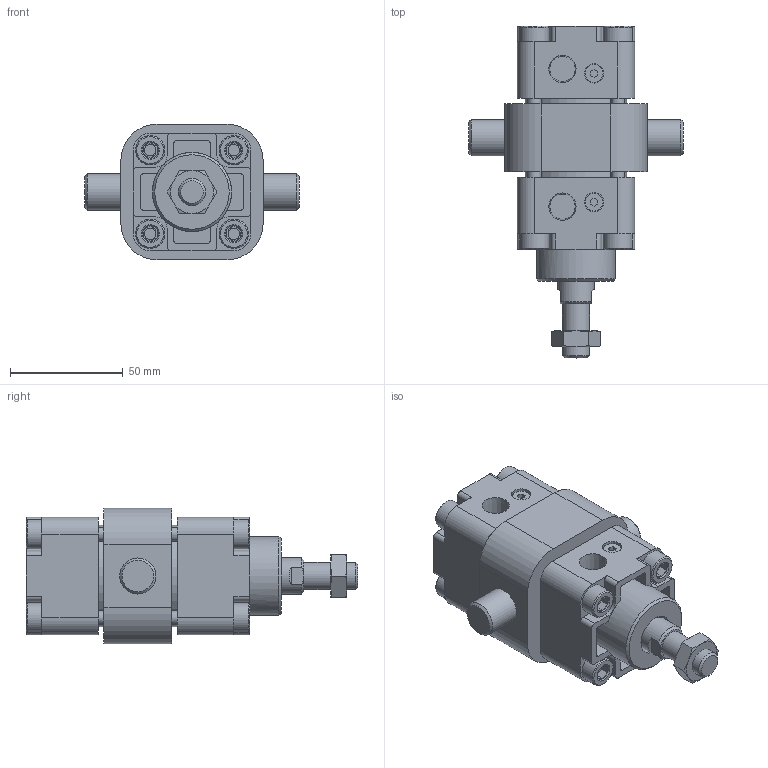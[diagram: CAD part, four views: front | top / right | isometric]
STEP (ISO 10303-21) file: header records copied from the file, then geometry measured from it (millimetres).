
FILE_DESCRIPTION(/* description */ ('Unknown'),/* implementation_level */ '2;1');
FILE_NAME(/* name */ 'WA40-TC',/* time_stamp */ '2026-07-17T16:48:41+08:00',/* author */ ('Unknown'),/* organization */ ('Unknown'),/* preprocessor_version */ 'ST-DEVELOPER v16.7',/* originating_system */ 'DEX',/* authorisation */ $);
FILE_SCHEMA (('CONFIG_CONTROL_DESIGN'));
Length unit declared in the file: millimetre
Products named in the file (8): WA40-TC; WA40_前; WA40_後; WA40_鋁; WA40_､ﾟｶbｬ｡#; WA40_T帽牙; M12-1.25P-7_螺; WA40_TC
Assembly tree (10 placements, depth 2):
  WA40-TC
    WA40_前
    WA40_後
    WA40_鋁
    WA40_､ﾟｶbｬ｡#
    WA40_T帽牙  x4
    M12-1.25P-7_螺
    WA40_TC
Bounding box: 95 x 147 x 60 mm (x, y, z)
Volume: 293596.4 mm3; surface area: 88998.9 mm2
Topology: 10 solids, 10 shells, 365 faces, 866 edges, 580 vertices
Faces by surface type: plane 213, cylinder 113, cone 39
Full cylindrical faces by diameter (mm): 5 x12, 6 x4, 8 x2, 8.5 x2, 8.8 x8, 9 x8, 10.647 x1, 12 x1, 13 x8, 16 x4, 35 x1, 39.5 x1, 40 x3, 45 x1, 45.5 x1
Entity records: 9331 total; most frequent: CARTESIAN_POINT 1341, DIRECTION 1316, ORIENTED_EDGE 1154, EDGE_CURVE 577, AXIS2_PLACEMENT_3D 496, VERTEX_POINT 409, EDGE_LOOP 370, FACE_BOUND 370
